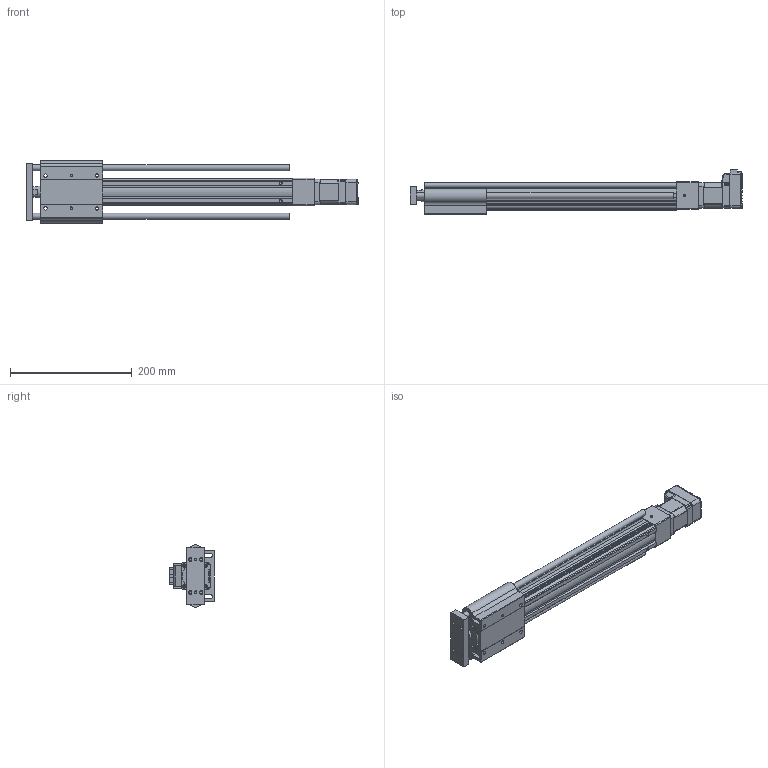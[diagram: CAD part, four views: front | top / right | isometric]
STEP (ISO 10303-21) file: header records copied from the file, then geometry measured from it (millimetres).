
FILE_DESCRIPTION (( 'STEP AP214' ), '1' );
FILE_NAME ('LEYG3(+)-25LDNM1□-300-17L.STEP', '2023-04-10T04:34:15', ( '' ), ( '' ), 'SwSTEP 2.0', 'SolidWorks 2019', '' );
FILE_SCHEMA (( 'AUTOMOTIVE_DESIGN' ));
Length unit declared in the file: millimetre
Products named in the file (6): CM3(+)-17L50A; LEYG3(+)-25NM1?_BODY_300; LEYG3(+)-25LNM1□_ATTACH_300; LEYG3(+)-25LDNM1□-300-17L; LEYG3(+)-25LNM1?_ROD_300; LEYG3(+)-25□DNM1_MOTOR Flange
Assembly tree (5 placements, depth 2):
  LEYG3(+)-25LDNM1□-300-17L
    LEYG3(+)-25NM1?_BODY_300
    LEYG3(+)-25LNM1?_ROD_300
    LEYG3(+)-25LNM1□_ATTACH_300
    LEYG3(+)-25□DNM1_MOTOR Flange
    CM3(+)-17L50A
Bounding box: 545.8 x 73.55 x 103 mm (x, y, z)
Volume: 1165621.2 mm3; surface area: 263026.4 mm2
Topology: 5 solids, 5 shells, 940 faces, 2388 edges, 1501 vertices
Faces by surface type: plane 499, cylinder 272, cone 90, bspline 29, torus 29, sphere 21
Full cylindrical faces by diameter (mm): 2.5 x4, 3.5 x4, 4 x2, 4.2 x2, 4.9 x4, 5 x1, 5.4 x4, 8 x1, 10 x2, 11 x1, 22 x1, 33 x1
Entity records: 38889 total; most frequent: CARTESIAN_POINT 6846, ORIENTED_EDGE 4620, DIRECTION 4489, EDGE_CURVE 2310, AXIS2_PLACEMENT_3D 1502, VERTEX_POINT 1494, VECTOR 1485, LINE 1485
